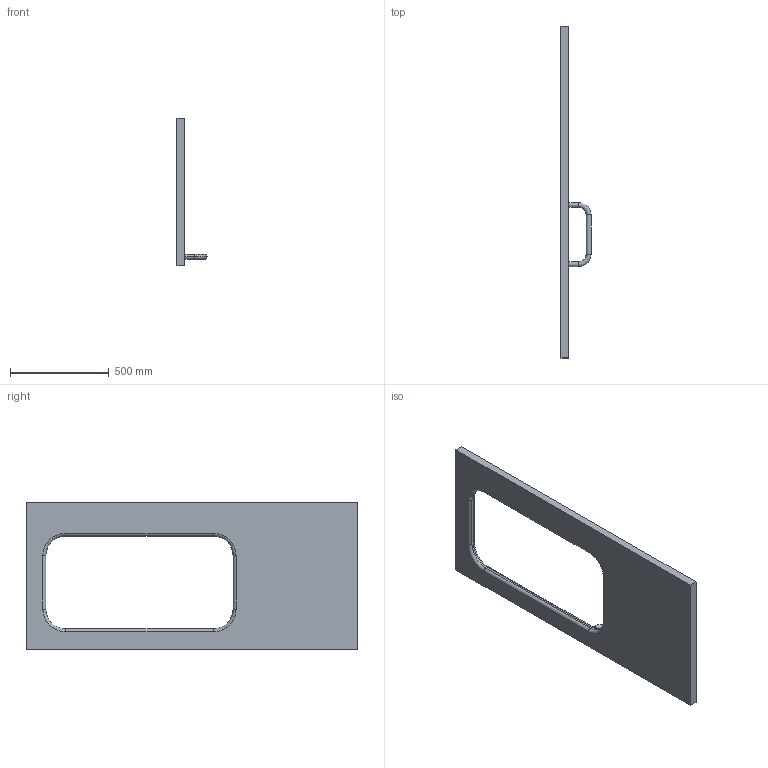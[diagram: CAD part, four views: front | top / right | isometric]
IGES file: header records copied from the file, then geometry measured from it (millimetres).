
Start section: START RECORD GO HERE.
Global section: file name: bati-porte.igs; native system: IBM CATIA IGES - CATIA Version 5 Release 10 ; preprocessor: CATIA Version 5 Release 10 ; date: 20030711.094623; units: millimetre
Bounding box: 152.5 x 1683.16 x 746.95 mm (x, y, z)
Surface area: 1940536.7 mm2 (no closed solid volume)
Topology: 0 solids, 0 shells, 40 faces, 180 edges, 180 vertices
Faces by surface type: revolution 30, plane 10
